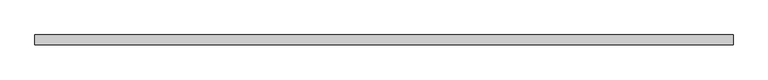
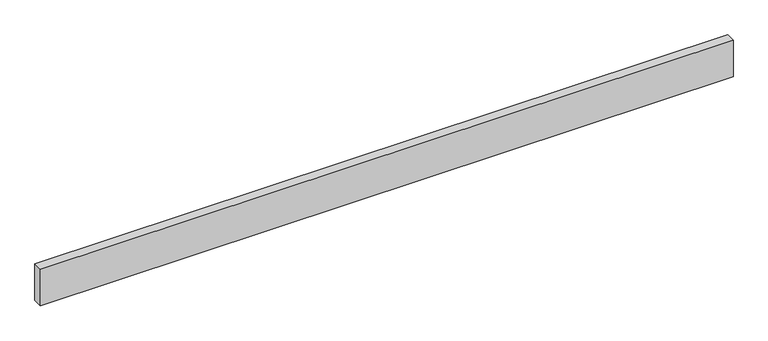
"""IFC4 building model written with IfcOpenShell, lengths in millimetres: beam geometry, Деревянный брус : 50х200."""

import ifcopenshell
import ifcopenshell.guid

model = None  # the IFC model being written
_history = None  # IfcOwnerHistory: only IFC2X3 demands one
_inside = {}  # id of a spatial element -> (the spatial element, [elements in it])
_under = {}  # id of a project, library or spatial element -> (it, [spatial elements below it])
_declared = {}  # id of a project -> (the project, [libraries it declares])
_typed = {}  # id of a type object -> (the type object, [elements of that type])
_made_of = {}  # id of a material, layer set ... -> (it, [elements and type objects made of it])


def new_model(schema):
    """Start an empty IFC model of exactly this schema.

    Asked for "IFC4X3", IfcOpenShell would pick the latest addendum, in which some entities
    have other attributes; the version numbers below select the first issue.
    IFC2X3 requires an IfcOwnerHistory on every rooted entity: one is made here for all.
    """
    global model, _history
    if schema == "IFC4X3":
        model = ifcopenshell.file(schema_version=(4, 3, 0, 0))
    else:
        model = ifcopenshell.file(schema=schema)
    _inside.clear()
    _under.clear()
    _declared.clear()
    _typed.clear()
    _made_of.clear()
    _history = None
    if model.schema == "IFC2X3":
        org = make("IfcOrganization", Name="unknown")
        user = make(
            "IfcPersonAndOrganization",
            ThePerson=make("IfcPerson", FamilyName="unknown"),
            TheOrganization=org,
        )
        app = make(
            "IfcApplication",
            ApplicationDeveloper=org,
            Version="unknown",
            ApplicationFullName="unknown",
            ApplicationIdentifier="unknown",
        )
        _history = make(
            "IfcOwnerHistory",
            OwningUser=user,
            OwningApplication=app,
            ChangeAction="ADDED",
            CreationDate=0,
        )
    return model


def make(cls, **values):
    """One entity of the class cls with the attributes given. An attribute that is None is left unset."""
    return model.create_entity(
        cls, **{name: value for name, value in values.items() if value is not None}
    )


def rooted(cls, **values):
    """An entity with a GlobalId (a new one), such as an element, a storey or a relation."""
    return make(cls, GlobalId=ifcopenshell.guid.new(), OwnerHistory=_history, **values)


def si_unit(unit_type, name, prefix=None):
    """IfcSIUnit, for example si_unit("LENGTHUNIT", "METRE", prefix="MILLI")."""
    return make("IfcSIUnit", UnitType=unit_type, Prefix=prefix, Name=name)


def assignment(units):
    """IfcUnitAssignment: the units of a project."""
    return None if units is None else make("IfcUnitAssignment", Units=units)


def point(xyz):
    """IfcCartesianPoint."""
    return None if xyz is None else make("IfcCartesianPoint", Coordinates=xyz)


def direction(xyz):
    """IfcDirection."""
    return None if xyz is None else make("IfcDirection", DirectionRatios=xyz)


def frame(location, z_axis=None, x_axis=None):
    """IfcAxis2Placement3D, a coordinate frame: its origin and axes. An axis left out is left unset."""
    return make(
        "IfcAxis2Placement3D",
        Location=point(location),
        Axis=direction(z_axis),
        RefDirection=direction(x_axis),
    )


def origin():
    """The frame at (0, 0, 0) with its axes left unset."""
    return frame((0.0, 0.0, 0.0))


def place(relative_to, where):
    """IfcLocalPlacement: puts the frame where relative to a parent placement (None: the world)."""
    return make(
        "IfcLocalPlacement", PlacementRelTo=relative_to, RelativePlacement=where
    )


def context(
    kind, dimensions, precision=None, world=None, true_north=None, identifier=None
):
    """IfcGeometricRepresentationContext, for example the 3D "Model" context."""
    return make(
        "IfcGeometricRepresentationContext",
        ContextIdentifier=identifier,
        ContextType=kind,
        CoordinateSpaceDimension=dimensions,
        Precision=precision,
        WorldCoordinateSystem=world,
        TrueNorth=true_north,
    )


def project(units=None, contexts=None):
    """IfcProject with its units and contexts."""
    return rooted(
        "IfcProject",
        Name="project",
        RepresentationContexts=contexts,
        UnitsInContext=assignment(units),
    )


def spatial(cls, under=None, at=None, **own):
    """A site, building, storey or space (cls), placed at a placement, below another one or the project."""
    s = rooted(cls, ObjectPlacement=at, **own)
    if under is not None:
        _under.setdefault(under.id(), (under, []))[1].append(s)
    return s


def polyline(points):
    """IfcPolyline through the points."""
    return make("IfcPolyline", Points=[point(p) for p in points])


def outline(outer, holes=None, kind="AREA"):
    """IfcArbitraryClosedProfileDef: a profile drawn as a closed curve; with holes, ...WithVoids."""
    if holes is None:
        return make("IfcArbitraryClosedProfileDef", ProfileType=kind, OuterCurve=outer)
    return make(
        "IfcArbitraryProfileDefWithVoids",
        ProfileType=kind,
        OuterCurve=outer,
        InnerCurves=holes,
    )


def extrude(swept, where, along, depth):
    """IfcExtrudedAreaSolid: the profile swept, set in the frame where, extruded along a direction by depth."""
    return make(
        "IfcExtrudedAreaSolid",
        SweptArea=swept,
        Position=where,
        ExtrudedDirection=direction(along),
        Depth=depth,
    )


def shape(context_of_items, identifier, shape_type, items):
    """IfcShapeRepresentation: the items that make up one representation, for example the "Body"."""
    return make(
        "IfcShapeRepresentation",
        ContextOfItems=context_of_items,
        RepresentationIdentifier=identifier,
        RepresentationType=shape_type,
        Items=items,
    )


def source(mapping_origin, context_of_items, identifier, shape_type, items):
    """IfcRepresentationMap: a shape defined once, which mapped items show again and again."""
    return make(
        "IfcRepresentationMap",
        MappingOrigin=mapping_origin,
        MappedRepresentation=shape(context_of_items, identifier, shape_type, items),
    )


def transform(
    local_origin,
    x_axis=None,
    y_axis=None,
    z_axis=None,
    scale=None,
    scale2=None,
    scale3=None,
    uniform=True,
):
    """IfcCartesianTransformationOperator3D, or its non-uniform kind. x_axis, y_axis, z_axis: its Axis1, 2, 3."""
    if uniform:
        return make(
            "IfcCartesianTransformationOperator3D",
            Axis1=direction(x_axis),
            Axis2=direction(y_axis),
            LocalOrigin=point(local_origin),
            Scale=scale,
            Axis3=direction(z_axis),
        )
    return make(
        "IfcCartesianTransformationOperator3DnonUniform",
        Axis1=direction(x_axis),
        Axis2=direction(y_axis),
        LocalOrigin=point(local_origin),
        Scale=scale,
        Axis3=direction(z_axis),
        Scale2=scale2,
        Scale3=scale3,
    )


def mapped(mapping_source, mapping_target):
    """IfcMappedItem: shows the shape of a source again, moved by a transform."""
    return make(
        "IfcMappedItem", MappingSource=mapping_source, MappingTarget=mapping_target
    )


def made_of(thing, what):
    """Note that an element or type object is made of a material, layer set ...; save() writes the relation."""
    if what is not None:
        _made_of.setdefault(what.id(), (what, []))[1].append(thing)
    return thing


def element(
    cls,
    number,
    at=None,
    inside=None,
    cuts=None,
    type_object=None,
    material=None,
    context=None,
    identifier="Body",
    shape_type=None,
    held_by="IfcProductDefinitionShape",
    body=None,
    shapes=None,
    **own,
):
    """One element of the class cls, such as IfcWall. Its Tag is "e" and its number.

    at: its placement. inside: the storey or other place that contains it. cuts: it is an
    opening in that element (IfcRelVoidsElement). A single representation is given by context,
    identifier, shape_type and body (its items); several are given by shapes. held_by: the class
    of the entity that holds the representations. save() writes the other relations.
    """
    e = rooted(cls, Tag="e%d" % number, ObjectPlacement=at, **own)
    if body is not None:
        shapes = [shape(context, identifier, shape_type, body)]
    if shapes is not None:
        e.Representation = make(held_by, Representations=shapes)
    if inside is not None:
        _inside.setdefault(inside.id(), (inside, []))[1].append(e)
    if cuts is not None:
        rooted(
            "IfcRelVoidsElement", RelatingBuildingElement=cuts, RelatedOpeningElement=e
        )
    if type_object is not None:
        _typed.setdefault(type_object.id(), (type_object, []))[1].append(e)
    return made_of(e, material)


def aggregate(whole, parts):
    """IfcRelAggregates: a whole, such as a stair, and the parts it consists of."""
    return rooted("IfcRelAggregates", RelatingObject=whole, RelatedObjects=parts)


def save(model, path):
    """Write the relations noted so far, then the file.

    IfcRelAggregates (storeys below a building ...), IfcRelContainedInSpatialStructure (elements
    in a storey), IfcRelDefinesByType, IfcRelAssociatesMaterial and IfcRelDeclares: one each for
    every whole, place, type object, material and project.
    """
    for whole, parts in _under.values():
        aggregate(whole, parts)
    for where, things in _inside.values():
        rooted(
            "IfcRelContainedInSpatialStructure",
            RelatedElements=things,
            RelatingStructure=where,
        )
    for kind, things in _typed.values():
        rooted("IfcRelDefinesByType", RelatedObjects=things, RelatingType=kind)
    for what, things in _made_of.values():
        rooted("IfcRelAssociatesMaterial", RelatedObjects=things, RelatingMaterial=what)
    for by, libraries in _declared.values():
        rooted("IfcRelDeclares", RelatingContext=by, RelatedDefinitions=libraries)
    model.write(path)


def beam_5dea3e8d(model_context):
    return source(origin(), model_context, "Body", "SweptSolid", [
        extrude(outline(polyline([(1800.0, 25.0), (1800.0, -25.0), (-1800.0, -25.0), (-1800.0, 25.0), (1800.0, 25.0)])), frame((0.0, 0.0, -100.0), z_axis=(0.0, 0.0, 1.0), x_axis=(1.0, 0.0, 0.0)), (0.0, 0.0, 1.0), 200.0),
    ])


if __name__ == "__main__":
    model = new_model("IFC4")
    model_context = context("Model", 3, world=origin())
    ifc_project = project(units=[si_unit("LENGTHUNIT", "METRE", prefix="MILLI")], contexts=[model_context])
    site = spatial("IfcSite", under=ifc_project)
    building = spatial("IfcBuilding", under=site)
    placement = place(None, origin())
    beam_shape = beam_5dea3e8d(model_context)
    element("IfcBeam", 1, ObjectType="Деревянный брус : 50х200", at=placement, inside=building, context=model_context, shape_type="MappedRepresentation", body=[
        mapped(beam_shape, transform((0.0, 0.0, 0.0), x_axis=(1.0, 0.0, 0.0), y_axis=(0.0, 1.0, 0.0), z_axis=(0.0, 0.0, 1.0))),
    ])
    save(model, "model.ifc")
